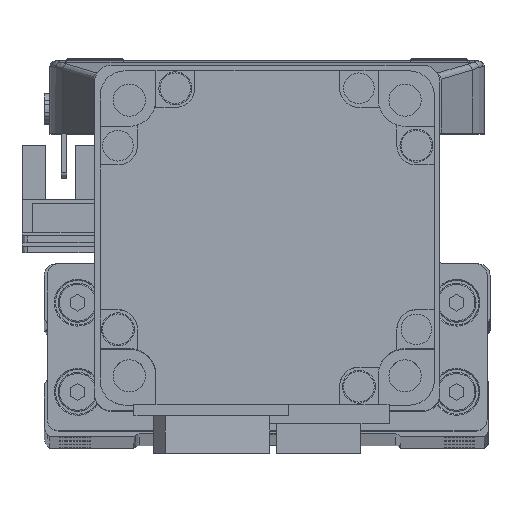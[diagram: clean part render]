
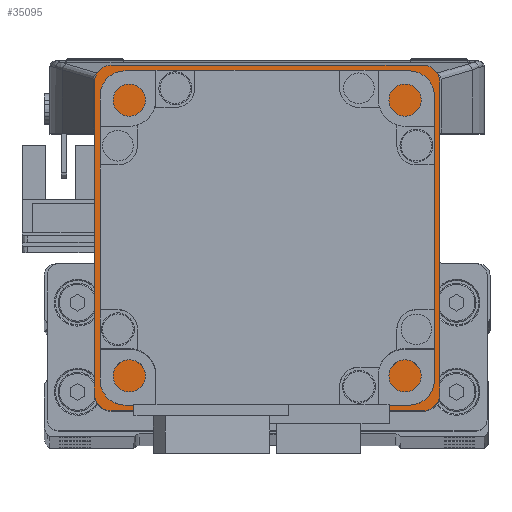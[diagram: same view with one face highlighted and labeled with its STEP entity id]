
A CAD part, top view. The second image highlights one B-rep face of the part: STEP entity #35095.
In plain terms, the highlighted planar face has unit normal (0, 0, 1).
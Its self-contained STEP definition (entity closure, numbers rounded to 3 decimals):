
#5811 = VERTEX_POINT ( 'NONE', #15949 ) ;
#5828 = VERTEX_POINT ( 'NONE', #15903 ) ;
#5829 = VERTEX_POINT ( 'NONE', #15966 ) ;
#5837 = VERTEX_POINT ( 'NONE', #15999 ) ;
#5851 = VERTEX_POINT ( 'NONE', #15992 ) ;
#5852 = VERTEX_POINT ( 'NONE', #16018 ) ;
#5853 = VERTEX_POINT ( 'NONE', #15978 ) ;
#5863 = VERTEX_POINT ( 'NONE', #16019 ) ;
#8431 = EDGE_CURVE ( 'NONE', #5837, #5863, #22180, .T. ) ;
#8438 = EDGE_CURVE ( 'NONE', #5863, #5829, #22135, .T. ) ;
#8446 = EDGE_CURVE ( 'NONE', #5829, #5853, #22144, .T. ) ;
#8450 = EDGE_CURVE ( 'NONE', #35172, #35157, #22137, .T. ) ;
#8451 = EDGE_CURVE ( 'NONE', #5828, #5837, #22152, .T. ) ;
#8454 = EDGE_CURVE ( 'NONE', #5811, #5851, #22150, .T. ) ;
#8465 = EDGE_CURVE ( 'NONE', #5852, #5811, #22172, .T. ) ;
#8469 = EDGE_CURVE ( 'NONE', #5851, #5828, #22231, .T. ) ;
#8476 = EDGE_CURVE ( 'NONE', #5853, #5852, #22202, .T. ) ;
#11827 = EDGE_CURVE ( 'NONE', #35157, #35172, #23354, .T. ) ;
#12177 = AXIS2_PLACEMENT_3D ( 'NONE', #21385, #21381, #21395 ) ;
#12179 = AXIS2_PLACEMENT_3D ( 'NONE', #21439, #21428, #21447 ) ;
#12189 = AXIS2_PLACEMENT_3D ( 'NONE', #21430, #21444, #21442 ) ;
#12257 = AXIS2_PLACEMENT_3D ( 'NONE', #21467, #21462, #21486 ) ;
#12274 = AXIS2_PLACEMENT_3D ( 'NONE', #21422, #21432, #21445 ) ;
#12912 = AXIS2_PLACEMENT_3D ( 'NONE', #33907, #33914, #33894 ) ;
#14343 = AXIS2_PLACEMENT_3D ( 'NONE', #18771, #18755, #18739 ) ;
#15903 = CARTESIAN_POINT ( 'NONE',  ( -27.995, 66.495, 79. ) ) ;
#15949 = CARTESIAN_POINT ( 'NONE',  ( 30.995, 63.495, 79. ) ) ;
#15966 = CARTESIAN_POINT ( 'NONE',  ( -27.995, 4.505, 79. ) ) ;
#15978 = CARTESIAN_POINT ( 'NONE',  ( 27.995, 4.505, 79. ) ) ;
#15992 = CARTESIAN_POINT ( 'NONE',  ( 27.995, 66.495, 79. ) ) ;
#15999 = CARTESIAN_POINT ( 'NONE',  ( -30.995, 63.495, 79. ) ) ;
#16018 = CARTESIAN_POINT ( 'NONE',  ( 30.995, 7.505, 79. ) ) ;
#16019 = CARTESIAN_POINT ( 'NONE',  ( -30.995, 7.505, 79. ) ) ;
#18739 = DIRECTION ( 'NONE',  ( 1., 0., 0. ) ) ;
#18752 = PLANE ( 'NONE',  #14343 ) ;
#18755 = DIRECTION ( 'NONE',  ( 0., 0., 1. ) ) ;
#18771 = CARTESIAN_POINT ( 'NONE',  ( 0., 0., 79. ) ) ;
#19198 = CARTESIAN_POINT ( 'NONE',  ( 25., 35.5, 79. ) ) ;
#19212 = CARTESIAN_POINT ( 'NONE',  ( -25., 35.5, 79. ) ) ;
#19432 = FACE_BOUND ( 'NONE', #45576, .T. ) ;
#19433 = FACE_OUTER_BOUND ( 'NONE', #45616, .T. ) ;
#21376 = CARTESIAN_POINT ( 'NONE',  ( -30.995, 4.505, 79. ) ) ;
#21381 = DIRECTION ( 'NONE',  ( 0., 0., 1. ) ) ;
#21384 = CARTESIAN_POINT ( 'NONE',  ( 30.995, 4.505, 79. ) ) ;
#21385 = CARTESIAN_POINT ( 'NONE',  ( -27.995, 7.505, 79. ) ) ;
#21389 = DIRECTION ( 'NONE',  ( 0., -1., 0. ) ) ;
#21395 = DIRECTION ( 'NONE',  ( 1., 0., 0. ) ) ;
#21407 = DIRECTION ( 'NONE',  ( 1., 0., 0. ) ) ;
#21411 = DIRECTION ( 'NONE',  ( -1., 0., 0. ) ) ;
#21422 = CARTESIAN_POINT ( 'NONE',  ( 27.995, 63.495, 79. ) ) ;
#21428 = DIRECTION ( 'NONE',  ( 0., 0., 1. ) ) ;
#21430 = CARTESIAN_POINT ( 'NONE',  ( -27.995, 63.495, 79. ) ) ;
#21432 = DIRECTION ( 'NONE',  ( 0., 0., 1. ) ) ;
#21438 = CARTESIAN_POINT ( 'NONE',  ( 30.995, 4.505, 79. ) ) ;
#21439 = CARTESIAN_POINT ( 'NONE',  ( 0., 35.5, 79. ) ) ;
#21442 = DIRECTION ( 'NONE',  ( 1., 0., 0. ) ) ;
#21444 = DIRECTION ( 'NONE',  ( 0., 0., 1. ) ) ;
#21445 = DIRECTION ( 'NONE',  ( 1., 0., 0. ) ) ;
#21447 = DIRECTION ( 'NONE',  ( 1., 0., 0. ) ) ;
#21449 = DIRECTION ( 'NONE',  ( 0., 1., 0. ) ) ;
#21451 = CARTESIAN_POINT ( 'NONE',  ( 30.995, 66.495, 79. ) ) ;
#21462 = DIRECTION ( 'NONE',  ( 0., 0., 1. ) ) ;
#21467 = CARTESIAN_POINT ( 'NONE',  ( 27.995, 7.505, 79. ) ) ;
#21486 = DIRECTION ( 'NONE',  ( 1., 0., 0. ) ) ;
#22132 = VECTOR ( 'NONE', #21407, 1000. ) ;
#22135 = CIRCLE ( 'NONE', #12177, 3. ) ;
#22137 = CIRCLE ( 'NONE', #12179, 25. ) ;
#22144 = LINE ( 'NONE', #21384, #22132 ) ;
#22150 = CIRCLE ( 'NONE', #12274, 3. ) ;
#22152 = CIRCLE ( 'NONE', #12189, 3. ) ;
#22172 = LINE ( 'NONE', #21438, #22186 ) ;
#22177 = VECTOR ( 'NONE', #21389, 1000. ) ;
#22180 = LINE ( 'NONE', #21376, #22177 ) ;
#22186 = VECTOR ( 'NONE', #21449, 1000. ) ;
#22202 = CIRCLE ( 'NONE', #12257, 3. ) ;
#22228 = VECTOR ( 'NONE', #21411, 1000. ) ;
#22231 = LINE ( 'NONE', #21451, #22228 ) ;
#23354 = CIRCLE ( 'NONE', #12912, 25. ) ;
#33894 = DIRECTION ( 'NONE',  ( 1., 0., 0. ) ) ;
#33907 = CARTESIAN_POINT ( 'NONE',  ( 0., 35.5, 79. ) ) ;
#33914 = DIRECTION ( 'NONE',  ( 0., 0., 1. ) ) ;
#35095 = ADVANCED_FACE ( 'NONE', ( #19432, #19433 ), #18752, .T. ) ;
#35157 = VERTEX_POINT ( 'NONE', #19212 ) ;
#35172 = VERTEX_POINT ( 'NONE', #19198 ) ;
#45576 = EDGE_LOOP ( 'NONE', ( #48041, #48046 ) ) ;
#45616 = EDGE_LOOP ( 'NONE', ( #48097, #48190, #48015, #48188, #48039, #48174, #48135, #48164 ) ) ;
#48015 = ORIENTED_EDGE ( 'NONE', *, *, #8446, .T. ) ;
#48039 = ORIENTED_EDGE ( 'NONE', *, *, #8465, .T. ) ;
#48041 = ORIENTED_EDGE ( 'NONE', *, *, #8450, .F. ) ;
#48046 = ORIENTED_EDGE ( 'NONE', *, *, #11827, .F. ) ;
#48097 = ORIENTED_EDGE ( 'NONE', *, *, #8431, .T. ) ;
#48135 = ORIENTED_EDGE ( 'NONE', *, *, #8469, .T. ) ;
#48164 = ORIENTED_EDGE ( 'NONE', *, *, #8451, .T. ) ;
#48174 = ORIENTED_EDGE ( 'NONE', *, *, #8454, .T. ) ;
#48188 = ORIENTED_EDGE ( 'NONE', *, *, #8476, .T. ) ;
#48190 = ORIENTED_EDGE ( 'NONE', *, *, #8438, .T. ) ;
